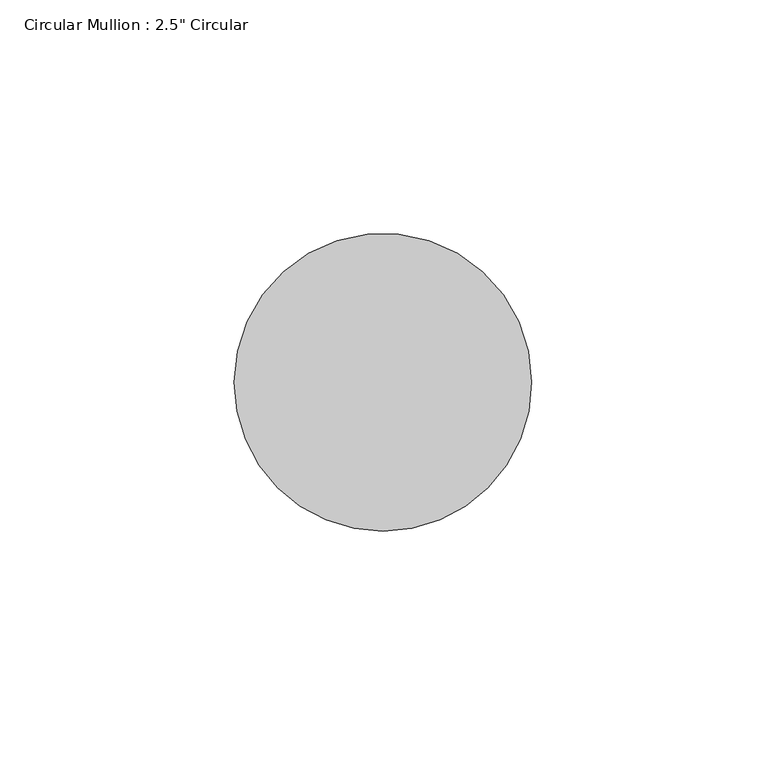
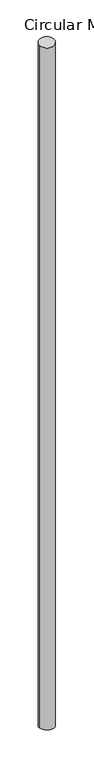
"""IFC4 building model written with IfcOpenShell, lengths in millimetres: member geometry."""

from ifc_helpers import new_model, si_unit, frame, origin, place, context, project, spatial, ellipse_curve, source, transform, mapped, element, save
from ifc_brep_helpers import plane_surface, cylinder_surface, advanced_brep


def member_c1d8b073(model_context):
    return source(origin(), model_context, "Body", "AdvancedBrep", [
        advanced_brep(
        [(-63.5, 0.0, -2.8033291), (0.0, 0.0, 0.0), (0.0, 0.0, -3044.6648656), (-63.5, 0.0, -3042.4279382)],
        [
            (0, 1, ellipse_curve(frame((-31.75, 0.0, -1.4016646), z_axis=(0.04393906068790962, 0.08639267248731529, -0.9952917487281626), x_axis=(0.45119902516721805, 0.8871443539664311, 0.0969243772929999)), 31.9001941, 31.75)),
            (1, 2),
            (2, 3, ellipse_curve(frame((-31.75, 0.0, -3043.5464019), z_axis=(0.03514687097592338, 0.05762202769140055, 0.9977195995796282), x_axis=(-0.5195440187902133, -0.8517736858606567, 0.06749518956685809)), 31.8225682, 31.75)),
            (3, 0),
            (1, 0, ellipse_curve(frame((-31.75, 0.0, -1.4016646), z_axis=(0.04393906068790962, 0.08639267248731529, -0.9952917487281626), x_axis=(0.45119902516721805, 0.8871443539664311, 0.0969243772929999)), 31.9001941, 31.75)),
            (3, 2, ellipse_curve(frame((-31.75, 0.0, -3043.5464019), z_axis=(0.03514687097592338, 0.05762202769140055, 0.9977195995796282), x_axis=(-0.5195440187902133, -0.8517736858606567, 0.06749518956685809)), 31.8225682, 31.75)),
        ],
        [
            cylinder_surface(frame((-31.75, 0.0, 0.0), z_axis=(0.0, 0.0, 1.0), x_axis=(1.0, 0.0, 0.0)), 31.75),
            plane_surface(frame((271.6807403, -138.1760303, 0.0), z_axis=(-0.04393906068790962, -0.08639267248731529, 0.9952917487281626), x_axis=(-0.45119902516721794, -0.8871443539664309, -0.09692437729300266))),
            plane_surface(frame((260.2140116, -158.7189597, -3044.6648656), z_axis=(-0.03514687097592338, -0.05762202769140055, -0.9977195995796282), x_axis=(-0.5195440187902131, -0.8517736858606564, 0.06749518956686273))),
        ],
        [
            (0, [[1, 2, 3, 4]]),
            (0, [[5, -4, 6, -2]]),
            (1, [[-1, -5]]),
            (2, [[-6, -3]]),
        ],
    ),
    ])


if __name__ == "__main__":
    model = new_model("IFC4")
    model_context = context("Model", 3, world=origin())
    ifc_project = project(units=[si_unit("LENGTHUNIT", "METRE", prefix="MILLI")], contexts=[model_context])
    site = spatial("IfcSite", under=ifc_project)
    building = spatial("IfcBuilding", under=site)
    placement = place(None, origin())
    member_shape = member_c1d8b073(model_context)
    element("IfcMember", 1, ObjectType="Circular Mullion : 2.5\" Circular", at=placement, inside=building, context=model_context, shape_type="MappedRepresentation", body=[
        mapped(member_shape, transform((0.0, 0.0, 0.0), x_axis=(1.0, 0.0, 0.0), y_axis=(0.0, 1.0, 0.0), z_axis=(0.0, 0.0, 1.0))),
    ])
    save(model, "model.ifc")
